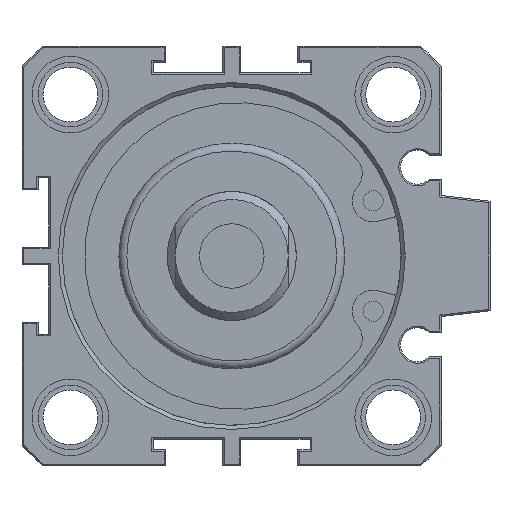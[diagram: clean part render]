
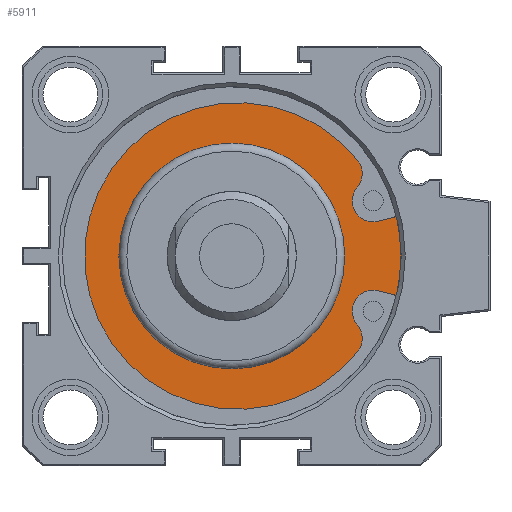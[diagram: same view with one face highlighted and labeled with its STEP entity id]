
A CAD part, front view. The second image highlights one B-rep face of the part: STEP entity #5911.
In plain terms, the highlighted planar face has unit normal (0, -1, 0).
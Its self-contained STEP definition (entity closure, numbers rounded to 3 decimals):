
#40=LINE('',#7988,#424);
#41=LINE('',#8000,#425);
#424=VECTOR('',#6801,1000.);
#425=VECTOR('',#6812,1000.);
#909=PLANE('',#6252);
#1231=ORIENTED_EDGE('',*,*,#2264,.F.);
#1232=ORIENTED_EDGE('',*,*,#2268,.F.);
#1233=ORIENTED_EDGE('',*,*,#2269,.T.);
#1234=ORIENTED_EDGE('',*,*,#2270,.T.);
#1235=ORIENTED_EDGE('',*,*,#2271,.T.);
#1236=ORIENTED_EDGE('',*,*,#2272,.T.);
#1237=ORIENTED_EDGE('',*,*,#2273,.T.);
#1238=ORIENTED_EDGE('',*,*,#2274,.T.);
#1239=ORIENTED_EDGE('',*,*,#2275,.T.);
#2264=EDGE_CURVE('',#2803,#2803,#3142,.F.);
#2268=EDGE_CURVE('',#2807,#2808,#3146,.T.);
#2269=EDGE_CURVE('',#2807,#2809,#40,.T.);
#2270=EDGE_CURVE('',#2809,#2810,#3147,.T.);
#2271=EDGE_CURVE('',#2810,#2811,#3148,.T.);
#2272=EDGE_CURVE('',#2811,#2812,#3149,.T.);
#2273=EDGE_CURVE('',#2812,#2813,#3150,.T.);
#2274=EDGE_CURVE('',#2813,#2814,#3151,.T.);
#2275=EDGE_CURVE('',#2814,#2808,#41,.T.);
#2803=VERTEX_POINT('',#7974);
#2807=VERTEX_POINT('',#7986);
#2808=VERTEX_POINT('',#7987);
#2809=VERTEX_POINT('',#7989);
#2810=VERTEX_POINT('',#7991);
#2811=VERTEX_POINT('',#7993);
#2812=VERTEX_POINT('',#7995);
#2813=VERTEX_POINT('',#7997);
#2814=VERTEX_POINT('',#7999);
#3142=CIRCLE('',#6245,14.);
#3146=CIRCLE('',#6253,22.25);
#3147=CIRCLE('',#6254,2.61);
#3148=CIRCLE('',#6255,2.61);
#3149=CIRCLE('',#6256,19.);
#3150=CIRCLE('',#6257,2.61);
#3151=CIRCLE('',#6258,2.61);
#3318=EDGE_LOOP('',(#1231));
#3319=EDGE_LOOP('',(#1232,#1233,#1234,#1235,#1236,#1237,#1238,#1239));
#3668=FACE_BOUND('',#3318,.T.);
#3669=FACE_BOUND('',#3319,.T.);
#5911=ADVANCED_FACE('',(#3668,#3669),#909,.F.);
#6245=AXIS2_PLACEMENT_3D('',#7973,#6783,#6784);
#6252=AXIS2_PLACEMENT_3D('',#7984,#6797,#6798);
#6253=AXIS2_PLACEMENT_3D('',#7985,#6799,#6800);
#6254=AXIS2_PLACEMENT_3D('',#7990,#6802,#6803);
#6255=AXIS2_PLACEMENT_3D('',#7992,#6804,#6805);
#6256=AXIS2_PLACEMENT_3D('',#7994,#6806,#6807);
#6257=AXIS2_PLACEMENT_3D('',#7996,#6808,#6809);
#6258=AXIS2_PLACEMENT_3D('',#7998,#6810,#6811);
#6783=DIRECTION('',(0.,1.,0.));
#6784=DIRECTION('',(-1.,0.,0.));
#6797=DIRECTION('',(0.,1.,0.));
#6798=DIRECTION('',(-1.,0.,0.));
#6799=DIRECTION('',(0.,1.,0.));
#6800=DIRECTION('',(-1.,0.,0.));
#6801=DIRECTION('',(-0.966,0.,-0.259));
#6802=DIRECTION('',(0.,1.,0.));
#6803=DIRECTION('',(1.,0.,0.));
#6804=DIRECTION('',(0.,-1.,0.));
#6805=DIRECTION('',(-1.,0.,0.));
#6806=DIRECTION('',(0.,-1.,0.));
#6807=DIRECTION('',(1.,0.,0.));
#6808=DIRECTION('',(0.,-1.,0.));
#6809=DIRECTION('',(-1.,0.,0.));
#6810=DIRECTION('',(0.,1.,0.));
#6811=DIRECTION('',(1.,0.,0.));
#6812=DIRECTION('',(0.966,0.,-0.259));
#7973=CARTESIAN_POINT('',(0.,4.,0.));
#7974=CARTESIAN_POINT('',(-14.,4.,0.));
#7984=CARTESIAN_POINT('',(0.,4.,-3.4));
#7985=CARTESIAN_POINT('',(0.,4.,0.));
#7986=CARTESIAN_POINT('',(21.626,4.,5.233));
#7987=CARTESIAN_POINT('',(21.626,4.,-5.233));
#7988=CARTESIAN_POINT('',(21.626,4.,5.233));
#7989=CARTESIAN_POINT('',(18.207,4.,4.317));
#7990=CARTESIAN_POINT('',(17.531,4.,6.838));
#7991=CARTESIAN_POINT('',(15.57,4.,8.56));
#7992=CARTESIAN_POINT('',(13.565,4.,10.23));
#7993=CARTESIAN_POINT('',(15.729,4.,11.688));
#7994=CARTESIAN_POINT('',(0.75,4.,0.));
#7995=CARTESIAN_POINT('',(15.729,4.,-11.688));
#7996=CARTESIAN_POINT('',(13.565,4.,-10.23));
#7997=CARTESIAN_POINT('',(15.57,4.,-8.56));
#7998=CARTESIAN_POINT('',(17.531,4.,-6.838));
#7999=CARTESIAN_POINT('',(18.207,4.,-4.317));
#8000=CARTESIAN_POINT('',(18.207,4.,-4.317));
